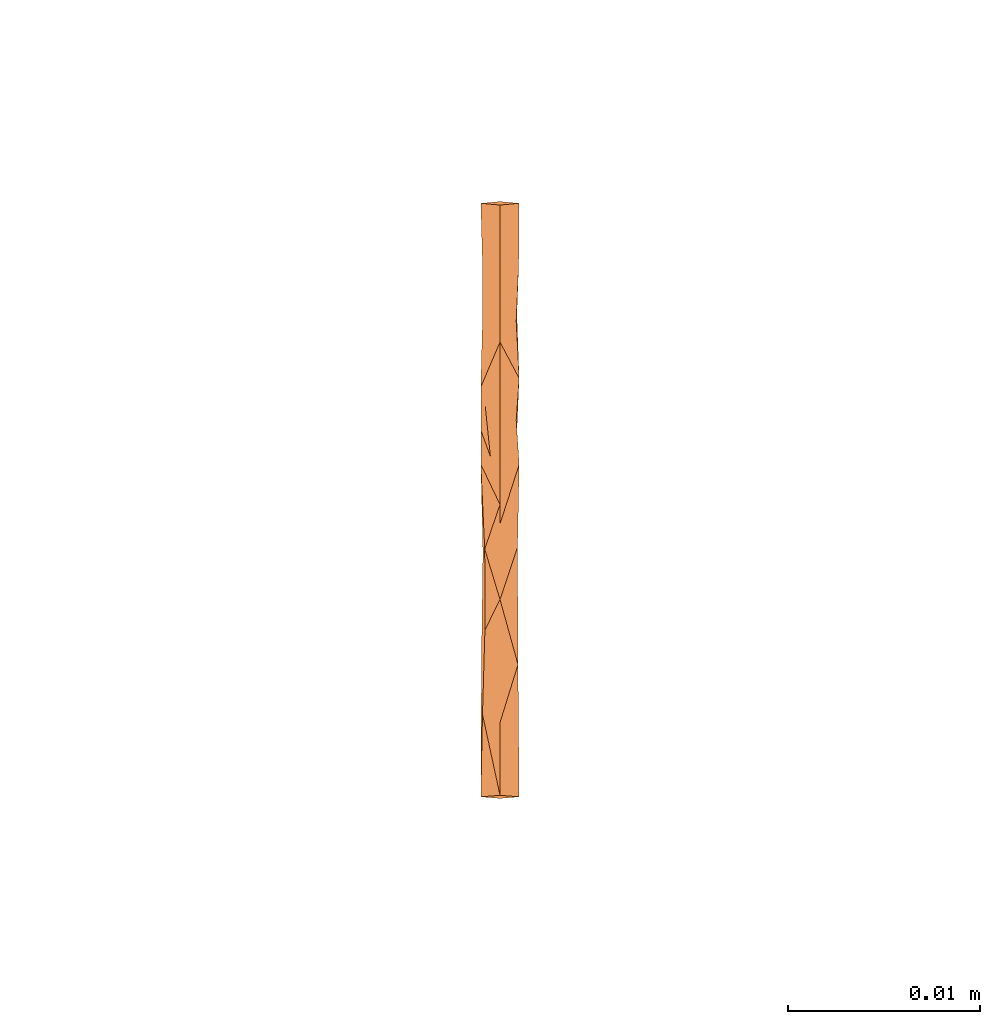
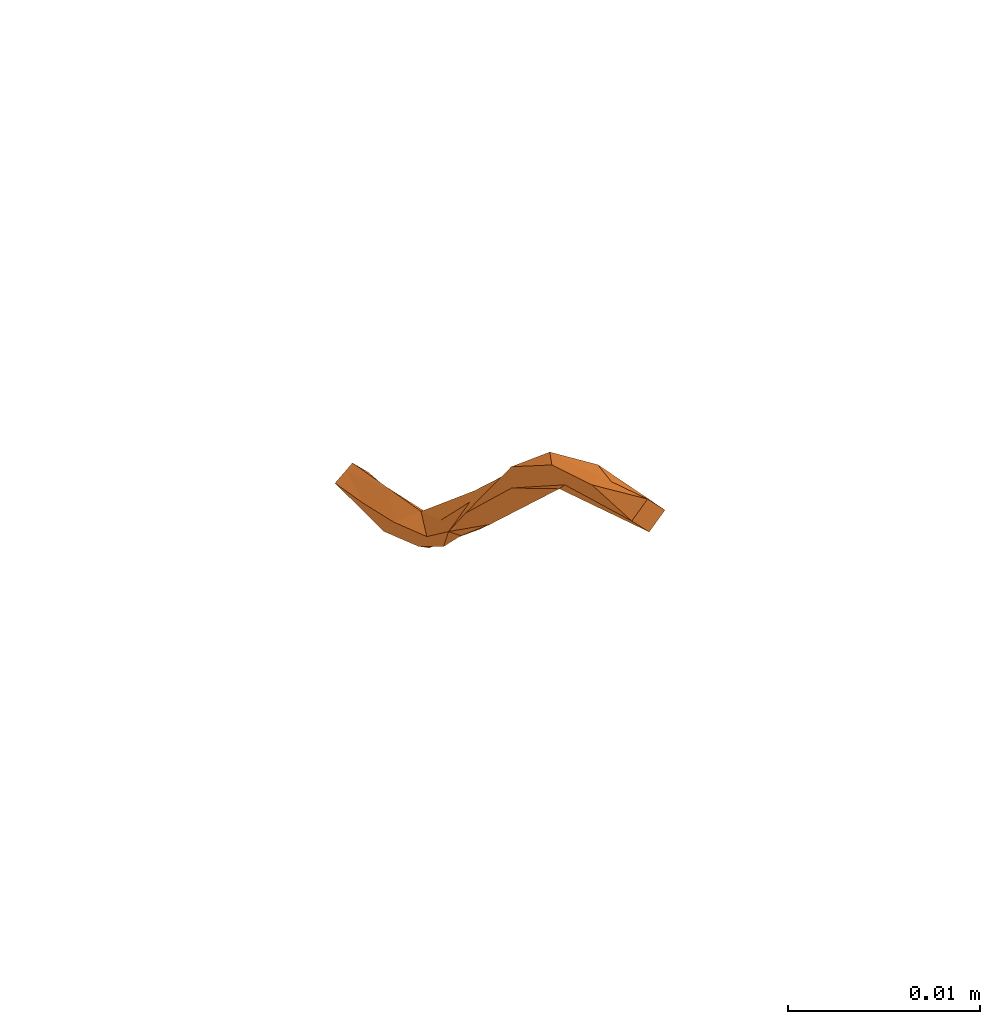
# One storey, part 86 of 197: 1 proxy.
"""IFC2X3 building model written with IfcOpenShell, lengths in metres."""

from ifc_helpers import new_model, entity, si_unit, converted_unit, direction, frame, origin, place, context, subcontext, project, spatial, faceted_brep, source, transform, mapped, material, type_object, type_shapes, element, save


model = new_model("IFC2X3")

# Units and contexts
model_context = context("Model", 3, precision=1e-05, world=origin(), true_north=direction((6.123031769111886e-17, 1.0)))
body_context = subcontext(model_context, "Body", "Model", "MODEL_VIEW")
ifc_project = project(units=[si_unit("LENGTHUNIT", "METRE"), converted_unit("PLANEANGLEUNIT", "DEGREE", entity("IfcPlaneAngleMeasure", 0.017453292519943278), si_unit("PLANEANGLEUNIT", "RADIAN"), dimensions=[0, 0, 0, 0, 0, 0, 0]), si_unit("AREAUNIT", "SQUARE_METRE")], contexts=[model_context])

# Site, building, storey
site_placement = place(None, origin())
site = spatial("IfcSite", under=ifc_project, at=site_placement, Name="Default", CompositionType="ELEMENT")
building_placement = place(site_placement, origin())
building = spatial("IfcBuilding", under=site, at=building_placement, CompositionType="ELEMENT")
storey_placement = place(building_placement, origin())
storey = spatial("IfcBuildingStorey", under=building, at=storey_placement, Name="Niveau 0", CompositionType="ELEMENT", Elevation=0.0)

# Proxy
ifc_material = material(Name="<Unnamed>")
building_element_proxy_type = type_object("IfcBuildingElementProxyType", Name="Attente électrique-50e:FM ELEC", PredefinedType="NOTDEFINED", material=ifc_material)
shared_shape = source(origin(), body_context, "Body", "Brep", [
    faceted_brep([(0.00015679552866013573, 0.02468901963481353, 0.0071236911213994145), (-0.0008432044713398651, 0.024606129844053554, 0.00812024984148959), (0.00015679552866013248, 0.024523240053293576, 0.009116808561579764), (0.0011567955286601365, 0.024606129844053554, 0.008120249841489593), (0.0010682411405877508, 0.020307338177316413, 0.007781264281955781), (0.0001567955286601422, 0.020902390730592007, 0.005938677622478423), (0.0011263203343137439, 0.017575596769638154, 0.006150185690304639), (0.0001567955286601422, 0.015326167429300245, 0.00419361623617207), (0.00015679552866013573, 0.020007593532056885, 0.005658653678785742), (0.00015679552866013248, 0.014326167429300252, 0.005925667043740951), (0.0009522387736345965, 0.011698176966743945, 0.0036743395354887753), (0.0009420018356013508, 0.015917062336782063, 0.006344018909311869), (0.00015679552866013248, 0.010395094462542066, 0.0023079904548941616), (0.00015679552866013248, 0.009383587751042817, 0.0013771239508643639), (0.00015679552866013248, 0.006464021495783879, -0.00130968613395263), (0.0006567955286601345, 0.006874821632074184, -0.0015947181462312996), (0.0011567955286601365, 0.007285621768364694, -0.0018797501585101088), (0.0001567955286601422, 0.008107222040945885, -0.002449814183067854), (0.0010477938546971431, 0.01190066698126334, 0.002476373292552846), (0.0001567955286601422, 0.011716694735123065, 0.000871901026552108), (0.00015679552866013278, 0.020736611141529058, 0.007931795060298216), (0.00015679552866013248, 0.01942470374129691, 0.0075212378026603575), (-0.000613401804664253, 0.017791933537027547, 0.005814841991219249), (-0.0008432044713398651, 0.007285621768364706, -0.0018797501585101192), (-0.0006561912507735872, 0.013063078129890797, 0.003217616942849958), (-0.0007811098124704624, 0.017711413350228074, 0.006845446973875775), (-0.000757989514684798, 0.011606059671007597, 0.0033430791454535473), (0.00015679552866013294, -0.006217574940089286, -0.0072232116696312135), (-0.0008432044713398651, -0.006308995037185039, -0.00821902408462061), (-0.0002260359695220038, -0.006365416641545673, -0.008833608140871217), (0.00015679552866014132, -0.006400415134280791, -0.009214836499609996), (0.0011567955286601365, -0.006308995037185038, -0.008219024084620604), (0.0005396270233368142, -0.006252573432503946, -0.007604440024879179), (0.00015679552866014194, 0.003425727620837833, -0.006395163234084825), (0.0008639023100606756, 0.00449332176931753, -0.005806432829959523), (0.0009254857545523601, 0.0019625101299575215, -0.007298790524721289), (0.0001567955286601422, -0.0025053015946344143, -0.008536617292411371), (0.00015679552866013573, 0.004937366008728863, -0.0051212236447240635), (0.00015679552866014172, 0.005083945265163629, -0.004997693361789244), (0.00015679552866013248, -0.0023224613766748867, -0.0065449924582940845), (0.00015679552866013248, -0.0026476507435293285, -0.006601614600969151), (0.0009203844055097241, 0.004301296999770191, -0.004224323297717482), (0.00015679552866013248, 0.0036931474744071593, -0.0036448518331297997), (0.00015679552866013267, 0.003440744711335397, -0.003857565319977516), (0.00015679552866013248, 0.0009222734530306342, -0.0059800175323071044), (0.0010089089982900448, -0.0014622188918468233, -0.008405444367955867), (0.001064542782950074, -0.00036395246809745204, -0.0071166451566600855), (0.0011567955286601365, 0.0032578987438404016, -0.005816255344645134), (0.0001567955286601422, 0.0017675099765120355, -0.007792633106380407), (0.0010782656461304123, -0.00348053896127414, -0.007818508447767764), (0.0011516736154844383, 0.005514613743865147, -0.004127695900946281), (-0.0006872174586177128, 0.004983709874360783, -0.00375435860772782), (-0.0008432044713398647, 0.002812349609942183, -0.006099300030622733), (-0.0006218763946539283, -0.003438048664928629, -0.008835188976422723), (-0.0008173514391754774, -0.003105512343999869, -0.007939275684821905), (-0.0007245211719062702, -0.0005251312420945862, -0.008103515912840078), (-0.0007251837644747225, 0.00551889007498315, -0.004634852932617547), (-0.0006856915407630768, -0.00016389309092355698, -0.006921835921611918)], [[[0, 1, 2, 3]], [[2, 4, 3]], [[3, 5, 0]], [[6, 5, 3]], [[6, 7, 8, 5]], [[9, 10, 11]], [[10, 9, 12, 13]], [[13, 14, 15, 16]], [[16, 10, 13]], [[17, 18, 16]], [[18, 17, 19, 7]], [[11, 10, 18]], [[6, 18, 7]], [[11, 18, 6]], [[10, 16, 18]], [[4, 6, 3]], [[4, 11, 6]], [[4, 2, 20, 21]], [[21, 9, 11]], [[21, 11, 4]], [[22, 1, 0]], [[23, 24, 19]], [[25, 9, 21, 20]], [[25, 20, 1]], [[7, 24, 22]], [[25, 24, 26]], [[24, 7, 19]], [[24, 23, 26]], [[23, 12, 26]], [[20, 2, 1]], [[25, 22, 24]], [[9, 25, 26]], [[17, 23, 19]], [[1, 22, 25]], [[22, 0, 5, 8, 7]], [[23, 14, 13, 12]], [[12, 9, 26]], [[27, 28, 29, 30, 31, 32]], [[33, 34, 35]], [[31, 30, 36]], [[34, 33, 37, 38]], [[32, 39, 40, 27]], [[41, 14, 42, 43, 44]], [[45, 31, 36]], [[44, 46, 47]], [[39, 46, 44]], [[48, 33, 35]], [[15, 14, 41]], [[35, 46, 45]], [[49, 32, 31]], [[45, 46, 49]], [[16, 50, 17]], [[32, 49, 39]], [[39, 49, 46]], [[31, 45, 49]], [[48, 45, 36]], [[47, 35, 34]], [[50, 38, 17]], [[50, 47, 34]], [[46, 35, 47]], [[45, 48, 35]], [[50, 34, 38]], [[41, 47, 50]], [[50, 16, 15]], [[47, 41, 44]], [[15, 41, 50]], [[43, 51, 52]], [[51, 14, 23]], [[43, 52, 44]], [[53, 54, 55]], [[56, 17, 38, 37, 33, 48]], [[54, 53, 28]], [[48, 55, 52]], [[52, 55, 57]], [[56, 52, 51]], [[52, 57, 44]], [[54, 57, 55]], [[48, 36, 55]], [[40, 57, 54]], [[36, 30, 29]], [[54, 27, 40]], [[57, 40, 39, 44]], [[54, 28, 27]], [[53, 55, 36]], [[36, 29, 53]], [[28, 53, 29]], [[51, 43, 42, 14]], [[52, 56, 48]], [[56, 51, 23]], [[17, 56, 23]]]),
])
type_shapes(building_element_proxy_type, [shared_shape])
proxy_placement = place(storey_placement, frame((18.717853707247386, 147.15381550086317, 0.0), z_axis=(0.0, 0.0, 1.0), x_axis=(-1.0, 0.0, 0.0)))
element("IfcBuildingElementProxy", 1, at=proxy_placement, inside=storey, type_object=building_element_proxy_type, material=ifc_material, Name="Attente électrique-50e:FM ELEC", ObjectType="Attente électrique-50e:FM ELEC", context=body_context, shape_type="MappedRepresentation", body=[
    mapped(shared_shape, transform((0.0, 0.0, 0.0), scale=1.0)),
])

save(model, "model.ifc")
